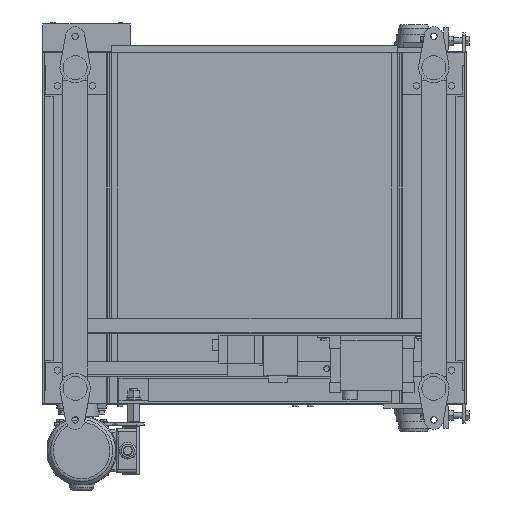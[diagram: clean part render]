
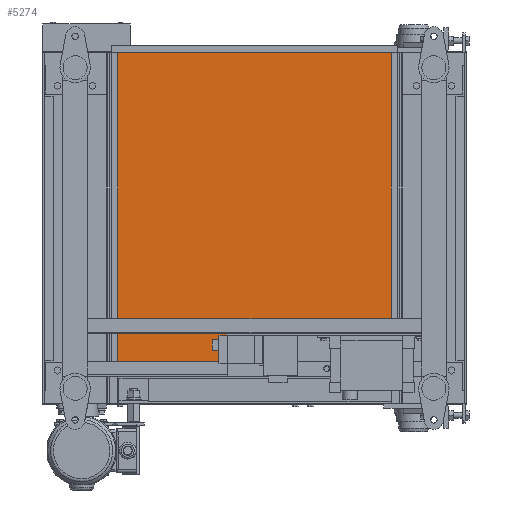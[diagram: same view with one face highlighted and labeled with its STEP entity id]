
A CAD part, front view. The second image highlights one B-rep face of the part: STEP entity #5274.
In plain terms, the highlighted planar face has unit normal (0, -1, 0).
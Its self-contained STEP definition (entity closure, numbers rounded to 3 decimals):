
#5274=ADVANCED_FACE('',(#29251),#29250,.F.);
#29250=PLANE('',#44225);
#29251=FACE_OUTER_BOUND('',#44226,.T.);
#44222=CARTESIAN_POINT('',(127.5,-165.,-296.));
#44223=DIRECTION('',(0.,1.,0.));
#44224=DIRECTION('',(0.,0.,1.));
#44225=AXIS2_PLACEMENT_3D('',#44222,#44223,#44224);
#44226=EDGE_LOOP('',(#58268,#58269,#58270,#58271));
#58268=ORIENTED_EDGE('',*,*,#65661,.F.);
#58269=ORIENTED_EDGE('',*,*,#65667,.F.);
#58270=ORIENTED_EDGE('',*,*,#65668,.F.);
#58271=ORIENTED_EDGE('',*,*,#65669,.F.);
#65661=EDGE_CURVE('',#107464,#107465,#107466,.T.);
#65667=EDGE_CURVE('',#107503,#107464,#107504,.T.);
#65668=EDGE_CURVE('',#107510,#107503,#107511,.T.);
#65669=EDGE_CURVE('',#107465,#107510,#107517,.T.);
#107464=VERTEX_POINT('',#136041);
#107465=VERTEX_POINT('',#136042);
#107466=LINE('',#136043,#136044);
#107503=VERTEX_POINT('',#136062);
#107504=LINE('',#136063,#136064);
#107510=VERTEX_POINT('',#136066);
#107511=LINE('',#136067,#136068);
#107517=LINE('',#136070,#136071);
#136041=CARTESIAN_POINT('',(137.5,-165.,-286.));
#136042=CARTESIAN_POINT('',(137.5,-165.,353.2));
#136043=CARTESIAN_POINT('',(137.5,-165.,-286.));
#136044=VECTOR('',#136045,639.2);
#136045=DIRECTION('',(0.,0.,1.));
#136062=CARTESIAN_POINT('',(712.5,-165.,-286.));
#136063=CARTESIAN_POINT('',(712.5,-165.,-286.));
#136064=VECTOR('',#136065,575.);
#136065=DIRECTION('',(-1.,0.,0.));
#136066=CARTESIAN_POINT('',(712.5,-165.,353.2));
#136067=CARTESIAN_POINT('',(712.5,-165.,353.2));
#136068=VECTOR('',#136069,639.2);
#136069=DIRECTION('',(0.,0.,-1.));
#136070=CARTESIAN_POINT('',(137.5,-165.,353.2));
#136071=VECTOR('',#136072,575.);
#136072=DIRECTION('',(1.,0.,0.));
